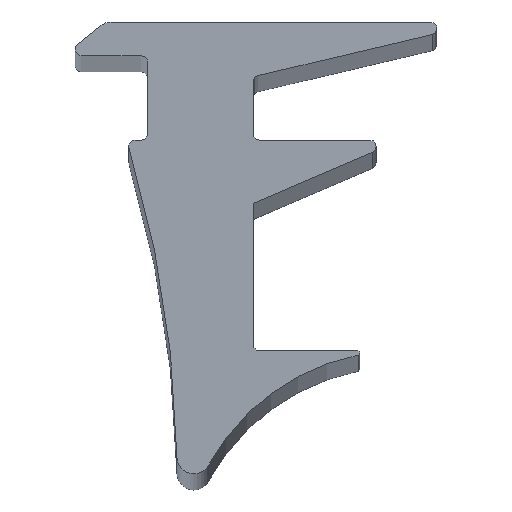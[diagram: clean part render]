
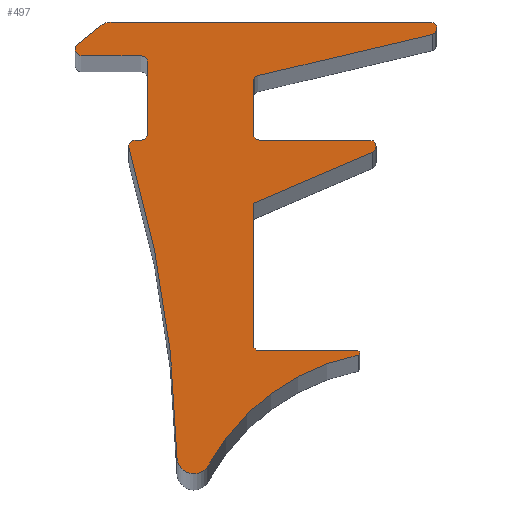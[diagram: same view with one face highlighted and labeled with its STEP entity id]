
A CAD part, top view. The second image highlights one B-rep face of the part: STEP entity #497.
In plain terms, the highlighted planar face has unit normal (0, 0, 1).
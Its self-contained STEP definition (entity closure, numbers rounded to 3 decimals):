
#17=PLANE('',#560);
#32=FACE_OUTER_BOUND('',#59,.T.);
#59=EDGE_LOOP('',(#366,#367,#368,#369,#370,#371,#372,#373,#374,#375,#376,
#377,#378,#379,#380,#381,#382,#383,#384,#385,#386,#387,#388,#389,#390));
#86=LINE('',#769,#133);
#99=LINE('',#826,#146);
#100=LINE('',#830,#147);
#101=LINE('',#834,#148);
#102=LINE('',#843,#149);
#103=LINE('',#847,#150);
#104=LINE('',#849,#151);
#105=LINE('',#853,#152);
#106=LINE('',#857,#153);
#107=LINE('',#861,#154);
#108=LINE('',#864,#155);
#133=VECTOR('',#609,9.125);
#146=VECTOR('',#658,9.125);
#147=VECTOR('',#661,9.125);
#148=VECTOR('',#664,9.125);
#149=VECTOR('',#673,9.125);
#150=VECTOR('',#676,9.125);
#151=VECTOR('',#677,9.125);
#152=VECTOR('',#680,9.125);
#153=VECTOR('',#683,9.125);
#154=VECTOR('',#686,9.125);
#155=VECTOR('',#689,9.125);
#176=CIRCLE('',#541,0.365);
#191=CIRCLE('',#559,0.365);
#192=CIRCLE('',#561,0.137);
#193=CIRCLE('',#562,0.137);
#194=CIRCLE('',#563,0.137);
#195=CIRCLE('',#564,0.137);
#196=CIRCLE('',#565,24.881);
#197=CIRCLE('',#566,4.728);
#198=CIRCLE('',#567,0.046);
#199=CIRCLE('',#568,0.137);
#200=CIRCLE('',#569,0.137);
#201=CIRCLE('',#570,0.137);
#202=CIRCLE('',#571,0.137);
#203=CIRCLE('',#572,0.137);
#204=VERTEX_POINT('',#756);
#205=VERTEX_POINT('',#757);
#209=VERTEX_POINT('',#767);
#232=VERTEX_POINT('',#817);
#233=VERTEX_POINT('',#819);
#234=VERTEX_POINT('',#823);
#235=VERTEX_POINT('',#825);
#236=VERTEX_POINT('',#827);
#237=VERTEX_POINT('',#829);
#238=VERTEX_POINT('',#831);
#239=VERTEX_POINT('',#833);
#240=VERTEX_POINT('',#835);
#241=VERTEX_POINT('',#838);
#242=VERTEX_POINT('',#840);
#243=VERTEX_POINT('',#842);
#244=VERTEX_POINT('',#844);
#245=VERTEX_POINT('',#846);
#246=VERTEX_POINT('',#848);
#247=VERTEX_POINT('',#850);
#248=VERTEX_POINT('',#852);
#249=VERTEX_POINT('',#854);
#250=VERTEX_POINT('',#856);
#251=VERTEX_POINT('',#858);
#252=VERTEX_POINT('',#860);
#253=VERTEX_POINT('',#862);
#254=EDGE_CURVE('',#204,#205,#176,.T.);
#260=EDGE_CURVE('',#204,#209,#86,.T.);
#285=EDGE_CURVE('',#232,#233,#191,.T.);
#287=EDGE_CURVE('',#234,#209,#192,.T.);
#288=EDGE_CURVE('',#234,#235,#99,.T.);
#289=EDGE_CURVE('',#236,#235,#193,.T.);
#290=EDGE_CURVE('',#236,#237,#100,.T.);
#291=EDGE_CURVE('',#238,#237,#194,.T.);
#292=EDGE_CURVE('',#238,#239,#101,.T.);
#293=EDGE_CURVE('',#240,#239,#195,.T.);
#294=EDGE_CURVE('',#240,#233,#196,.T.);
#295=EDGE_CURVE('',#232,#241,#197,.T.);
#296=EDGE_CURVE('',#242,#241,#198,.T.);
#297=EDGE_CURVE('',#242,#243,#102,.T.);
#298=EDGE_CURVE('',#244,#243,#199,.T.);
#299=EDGE_CURVE('',#244,#245,#103,.T.);
#300=EDGE_CURVE('',#245,#246,#104,.T.);
#301=EDGE_CURVE('',#247,#246,#200,.T.);
#302=EDGE_CURVE('',#247,#248,#105,.T.);
#303=EDGE_CURVE('',#249,#248,#201,.T.);
#304=EDGE_CURVE('',#249,#250,#106,.T.);
#305=EDGE_CURVE('',#251,#250,#202,.T.);
#306=EDGE_CURVE('',#251,#252,#107,.T.);
#307=EDGE_CURVE('',#253,#252,#203,.T.);
#308=EDGE_CURVE('',#253,#205,#108,.T.);
#366=ORIENTED_EDGE('',*,*,#254,.F.);
#367=ORIENTED_EDGE('',*,*,#260,.T.);
#368=ORIENTED_EDGE('',*,*,#287,.F.);
#369=ORIENTED_EDGE('',*,*,#288,.T.);
#370=ORIENTED_EDGE('',*,*,#289,.F.);
#371=ORIENTED_EDGE('',*,*,#290,.T.);
#372=ORIENTED_EDGE('',*,*,#291,.F.);
#373=ORIENTED_EDGE('',*,*,#292,.T.);
#374=ORIENTED_EDGE('',*,*,#293,.F.);
#375=ORIENTED_EDGE('',*,*,#294,.T.);
#376=ORIENTED_EDGE('',*,*,#285,.F.);
#377=ORIENTED_EDGE('',*,*,#295,.T.);
#378=ORIENTED_EDGE('',*,*,#296,.F.);
#379=ORIENTED_EDGE('',*,*,#297,.T.);
#380=ORIENTED_EDGE('',*,*,#298,.F.);
#381=ORIENTED_EDGE('',*,*,#299,.T.);
#382=ORIENTED_EDGE('',*,*,#300,.T.);
#383=ORIENTED_EDGE('',*,*,#301,.F.);
#384=ORIENTED_EDGE('',*,*,#302,.T.);
#385=ORIENTED_EDGE('',*,*,#303,.F.);
#386=ORIENTED_EDGE('',*,*,#304,.T.);
#387=ORIENTED_EDGE('',*,*,#305,.F.);
#388=ORIENTED_EDGE('',*,*,#306,.T.);
#389=ORIENTED_EDGE('',*,*,#307,.F.);
#390=ORIENTED_EDGE('',*,*,#308,.T.);
#497=ADVANCED_FACE('',(#32),#17,.T.);
#541=AXIS2_PLACEMENT_3D('',#758,#599,#600);
#559=AXIS2_PLACEMENT_3D('',#820,#651,#652);
#560=AXIS2_PLACEMENT_3D('',#822,#654,#655);
#561=AXIS2_PLACEMENT_3D('',#824,#656,#657);
#562=AXIS2_PLACEMENT_3D('',#828,#659,#660);
#563=AXIS2_PLACEMENT_3D('',#832,#662,#663);
#564=AXIS2_PLACEMENT_3D('',#836,#665,#666);
#565=AXIS2_PLACEMENT_3D('',#837,#667,#668);
#566=AXIS2_PLACEMENT_3D('',#839,#669,#670);
#567=AXIS2_PLACEMENT_3D('',#841,#671,#672);
#568=AXIS2_PLACEMENT_3D('',#845,#674,#675);
#569=AXIS2_PLACEMENT_3D('',#851,#678,#679);
#570=AXIS2_PLACEMENT_3D('',#855,#681,#682);
#571=AXIS2_PLACEMENT_3D('',#859,#684,#685);
#572=AXIS2_PLACEMENT_3D('',#863,#687,#688);
#599=DIRECTION('center_axis',(0.,0.,-1.));
#600=DIRECTION('ref_axis',(-0.331,0.944,0.));
#609=DIRECTION('',(-0.781,-0.625,0.));
#651=DIRECTION('center_axis',(0.,0.,-1.));
#652=DIRECTION('ref_axis',(1.,0.017,0.));
#654=DIRECTION('center_axis',(0.,0.,1.));
#655=DIRECTION('ref_axis',(1.,0.,0.));
#656=DIRECTION('center_axis',(0.,0.,-1.));
#657=DIRECTION('ref_axis',(-0.944,-0.331,0.));
#658=DIRECTION('',(1.,0.,0.));
#659=DIRECTION('center_axis',(0.,0.,1.));
#660=DIRECTION('ref_axis',(0.707,0.707,0.));
#661=DIRECTION('',(0.,-1.,0.));
#662=DIRECTION('center_axis',(0.,0.,1.));
#663=DIRECTION('ref_axis',(0.707,-0.707,0.));
#664=DIRECTION('',(-1.,0.,0.));
#665=DIRECTION('center_axis',(0.,0.,-1.));
#666=DIRECTION('ref_axis',(-0.802,0.597,0.));
#667=DIRECTION('center_axis',(0.,0.,-1.));
#668=DIRECTION('ref_axis',(-1.,0.,0.));
#669=DIRECTION('center_axis',(0.,0.,-1.));
#670=DIRECTION('ref_axis',(0.,-1.,0.));
#671=DIRECTION('center_axis',(0.,0.,-1.));
#672=DIRECTION('ref_axis',(0.995,0.098,0.));
#673=DIRECTION('',(-1.,0.,0.));
#674=DIRECTION('center_axis',(0.,0.,1.));
#675=DIRECTION('ref_axis',(-0.707,-0.707,0.));
#676=DIRECTION('',(0.,1.,0.));
#677=DIRECTION('',(0.919,0.394,0.));
#678=DIRECTION('center_axis',(0.,0.,-1.));
#679=DIRECTION('ref_axis',(0.98,0.201,0.));
#680=DIRECTION('',(-1.,0.,0.));
#681=DIRECTION('center_axis',(0.,0.,1.));
#682=DIRECTION('ref_axis',(-0.707,-0.707,0.));
#683=DIRECTION('',(0.,1.,0.));
#684=DIRECTION('center_axis',(0.,0.,1.));
#685=DIRECTION('ref_axis',(-0.784,0.62,0.));
#686=DIRECTION('',(0.973,0.23,0.));
#687=DIRECTION('center_axis',(0.,0.,-1.));
#688=DIRECTION('ref_axis',(0.993,0.116,0.));
#689=DIRECTION('',(-1.,0.,0.));
#756=CARTESIAN_POINT('',(-1.91,9.858,200.766));
#757=CARTESIAN_POINT('',(-1.682,9.938,200.766));
#758=CARTESIAN_POINT('Origin',(-1.682,9.573,200.766));
#767=CARTESIAN_POINT('',(-2.418,9.451,200.766));
#769=CARTESIAN_POINT('',(-1.81,9.938,200.766));
#817=CARTESIAN_POINT('',(0.423,0.35,200.766));
#819=CARTESIAN_POINT('',(-0.263,0.518,200.766));
#820=CARTESIAN_POINT('Origin',(0.102,0.524,200.766));
#822=CARTESIAN_POINT('Origin',(1.84,5.01,200.766));
#823=CARTESIAN_POINT('',(-2.333,9.208,200.766));
#824=CARTESIAN_POINT('Origin',(-2.333,9.345,200.766));
#825=CARTESIAN_POINT('',(-1.035,9.208,200.766));
#826=CARTESIAN_POINT('',(-2.723,9.208,200.766));
#827=CARTESIAN_POINT('',(-0.898,9.071,200.766));
#828=CARTESIAN_POINT('Origin',(-1.035,9.071,200.766));
#829=CARTESIAN_POINT('',(-0.898,7.52,200.766));
#830=CARTESIAN_POINT('',(-0.898,9.208,200.766));
#831=CARTESIAN_POINT('',(-1.035,7.383,200.766));
#832=CARTESIAN_POINT('Origin',(-1.035,7.52,200.766));
#833=CARTESIAN_POINT('',(-1.17,7.383,200.766));
#834=CARTESIAN_POINT('',(0.015,7.383,200.766));
#835=CARTESIAN_POINT('',(-1.301,7.207,200.766));
#836=CARTESIAN_POINT('Origin',(-1.17,7.246,200.766));
#837=CARTESIAN_POINT('Origin',(-25.14,0.083,200.766));
#838=CARTESIAN_POINT('',(3.657,2.73,200.766));
#839=CARTESIAN_POINT('Origin',(4.577,-1.908,200.766));
#840=CARTESIAN_POINT('',(3.648,2.82,200.766));
#841=CARTESIAN_POINT('Origin',(3.648,2.775,200.766));
#842=CARTESIAN_POINT('',(1.52,2.82,200.766));
#843=CARTESIAN_POINT('',(4.577,2.82,200.766));
#844=CARTESIAN_POINT('',(1.384,2.957,200.766));
#845=CARTESIAN_POINT('Origin',(1.52,2.957,200.766));
#846=CARTESIAN_POINT('',(1.384,6.014,200.766));
#847=CARTESIAN_POINT('',(1.384,2.82,200.766));
#848=CARTESIAN_POINT('',(3.964,7.12,200.766));
#849=CARTESIAN_POINT('',(1.384,6.014,200.766));
#850=CARTESIAN_POINT('',(3.91,7.383,200.766));
#851=CARTESIAN_POINT('Origin',(3.91,7.246,200.766));
#852=CARTESIAN_POINT('',(1.52,7.383,200.766));
#853=CARTESIAN_POINT('',(4.577,7.383,200.766));
#854=CARTESIAN_POINT('',(1.384,7.52,200.766));
#855=CARTESIAN_POINT('Origin',(1.52,7.52,200.766));
#856=CARTESIAN_POINT('',(1.384,8.643,200.766));
#857=CARTESIAN_POINT('',(1.384,7.383,200.766));
#858=CARTESIAN_POINT('',(1.489,8.776,200.766));
#859=CARTESIAN_POINT('Origin',(1.52,8.643,200.766));
#860=CARTESIAN_POINT('',(5.26,9.668,200.766));
#861=CARTESIAN_POINT('',(1.384,8.751,200.766));
#862=CARTESIAN_POINT('',(5.228,9.938,200.766));
#863=CARTESIAN_POINT('Origin',(5.228,9.801,200.766));
#864=CARTESIAN_POINT('',(6.402,9.938,200.766));
